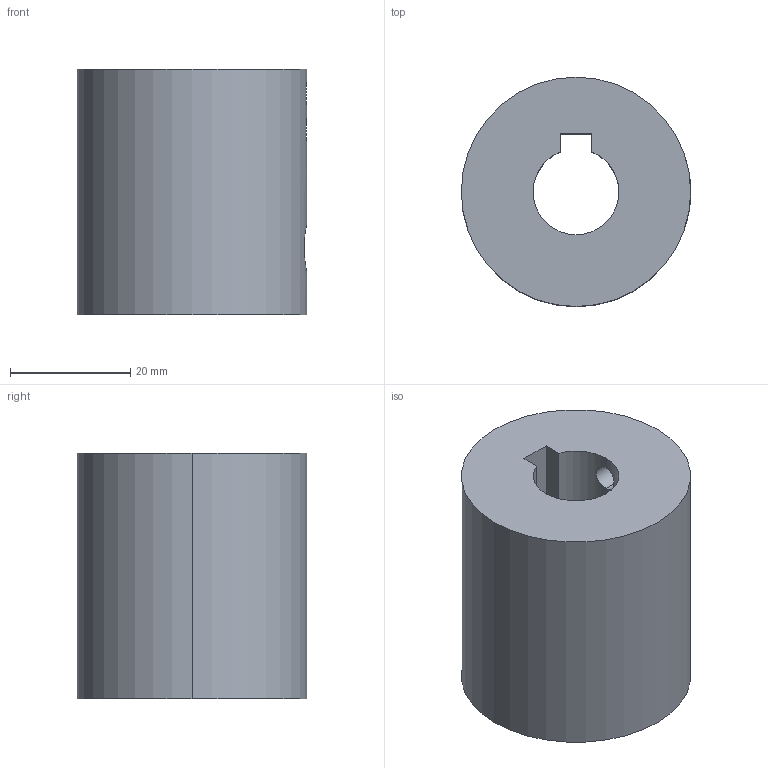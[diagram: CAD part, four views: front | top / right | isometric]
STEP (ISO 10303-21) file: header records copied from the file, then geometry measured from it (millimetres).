
FILE_DESCRIPTION (( 'STEP AP203' ), '1' );
FILE_NAME ('keyed shaft rev1.STEP', '2026-03-12T23:46:44', ( '' ), ( '' ), 'SwSTEP 2.0', 'SolidWorks 2025', '' );
FILE_SCHEMA (( 'CONFIG_CONTROL_DESIGN' ));
Length unit declared in the file: millimetre
Products named in the file (1): keyed shaft rev1
Bounding box: 38.1 x 38.1 x 40.7 mm (x, y, z)
Volume: 38419.8 mm3; surface area: 9331.5 mm2
Topology: 1 solids, 1 shells, 16 faces, 48 edges, 28 vertices
Faces by surface type: cylinder 11, plane 5
Entity records: 951 total; most frequent: CARTESIAN_POINT 449, ORIENTED_EDGE 96, DIRECTION 80, EDGE_CURVE 48, VERTEX_POINT 28, AXIS2_PLACEMENT_3D 27, VECTOR 26, LINE 26
